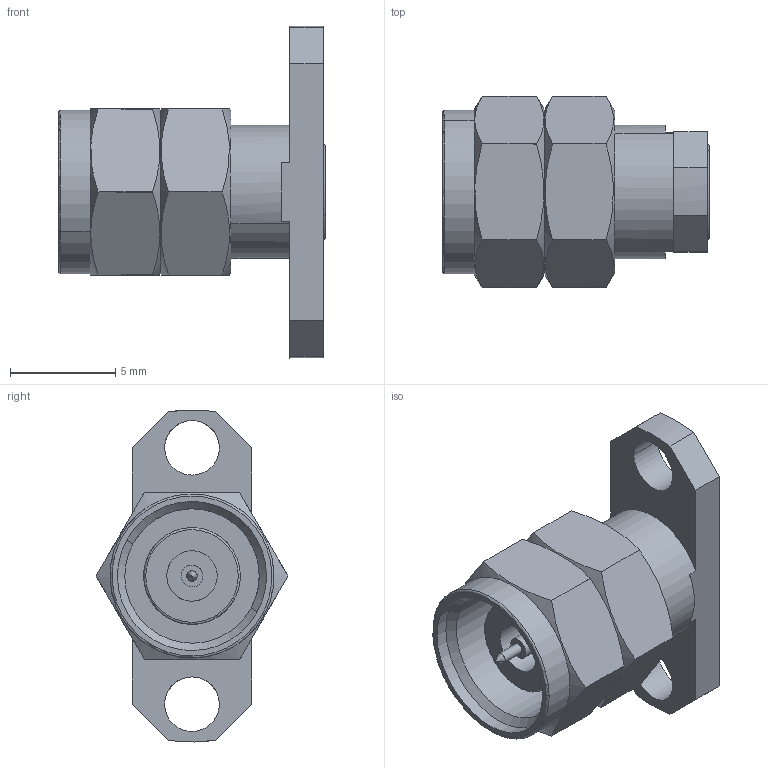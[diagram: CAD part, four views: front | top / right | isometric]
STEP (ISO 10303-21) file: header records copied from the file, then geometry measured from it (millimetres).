
FILE_DESCRIPTION(('CATIA V5 STEP Exchange'),'2;1');
FILE_NAME('F:\Work SZ\CMP 图纸\Precision Coaxial Connector\2.4mm\97-03-9E5-010\97-03-9E5-010(REV.A).stp','2013-08-08T09:48:31+00:00',('none'),('none'),'CATIA Version 5 Release 17 (IN-10)','CATIA V5 STEP AP203','none');
FILE_SCHEMA(('CONFIG_CONTROL_DESIGN'));
Length unit declared in the file: millimetre
Products named in the file (1): 97-03-9E5-010
Bounding box: 12.7 x 9.12 x 15.8 mm (x, y, z)
Surface area: 761.7 mm2 (no closed solid volume)
Topology: 0 solids, 1 shells, 95 faces, 242 edges, 154 vertices
Faces by surface type: plane 39, cylinder 28, cone 24, torus 4
Entity records: 3388 total; most frequent: CARTESIAN_POINT 1309, ORIENTED_EDGE 474, DIRECTION 309, EDGE_CURVE 237, VERTEX_POINT 153, AXIS2_PLACEMENT_3D 132, EDGE_LOOP 108, VECTOR 100
